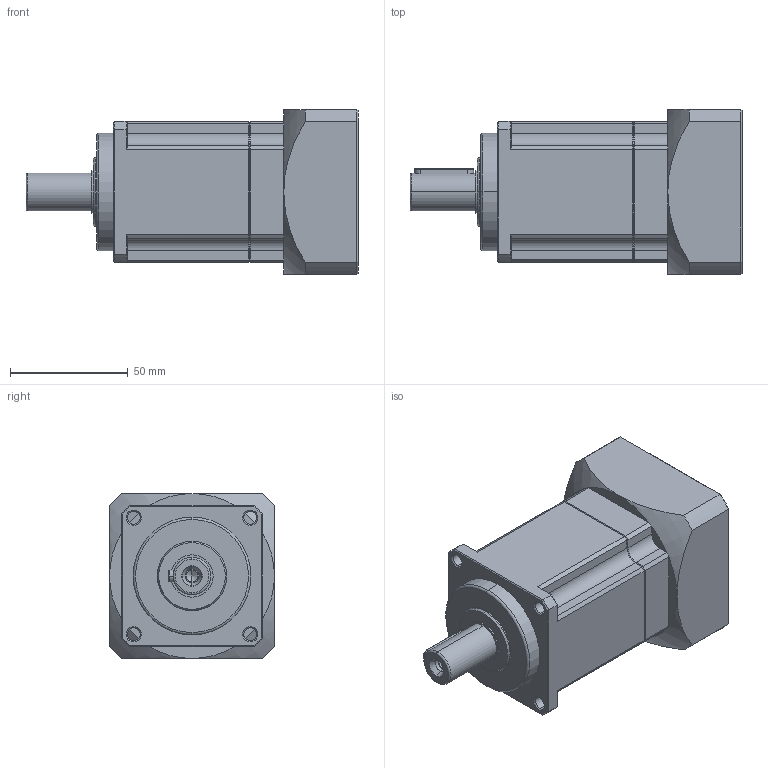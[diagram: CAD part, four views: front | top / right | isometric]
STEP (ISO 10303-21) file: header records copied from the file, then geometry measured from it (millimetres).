
FILE_DESCRIPTION (( 'STEP AP203' ), '1' );
FILE_NAME ('TB060-L2-11-60-75-M5-34.5-6.STEP', '2020-08-27T05:10:52', ( '' ), ( '' ), 'SwSTEP 2.0', 'SolidWorks 2017', '' );
FILE_SCHEMA (( 'CONFIG_CONTROL_DESIGN' ));
Length unit declared in the file: millimetre
Products named in the file (1): TB060-L2-11-60-75-M5-34.5-6
Bounding box: 141 x 70 x 70 mm (x, y, z)
Volume: 368396.3 mm3; surface area: 57729.4 mm2
Topology: 5 solids, 5 shells, 302 faces, 692 edges, 407 vertices
Faces by surface type: plane 113, cylinder 95, cone 80, torus 14
Entity records: 8737 total; most frequent: CARTESIAN_POINT 1857, DIRECTION 1492, ORIENTED_EDGE 1364, EDGE_CURVE 682, AXIS2_PLACEMENT_3D 586, VERTEX_POINT 407, EDGE_LOOP 331, LINE 320
